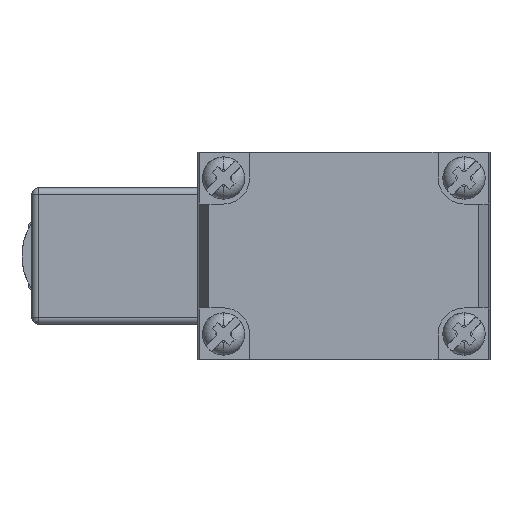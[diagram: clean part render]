
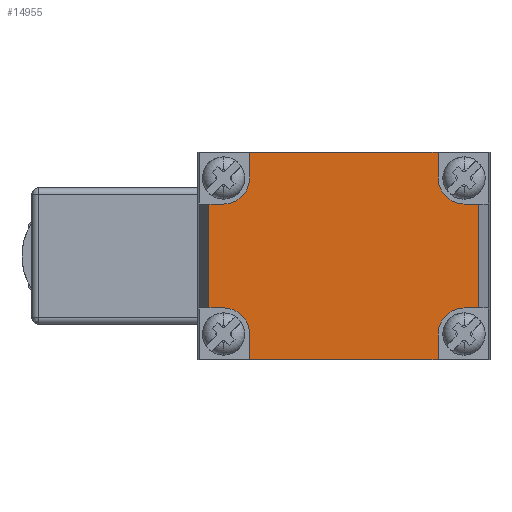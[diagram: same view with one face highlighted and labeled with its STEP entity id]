
A CAD part, left-side view. The second image highlights one B-rep face of the part: STEP entity #14955.
In plain terms, the highlighted planar face has unit normal (-1, 0, 0).
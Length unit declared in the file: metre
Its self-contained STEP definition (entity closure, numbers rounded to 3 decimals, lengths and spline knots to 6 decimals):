
#11 = ORIENTED_EDGE ( 'NONE', *, *, #952, .T. ) ;
#223 = LINE ( 'NONE', #18675, #9924 ) ;
#460 = CARTESIAN_POINT ( 'NONE',  ( -0.048, 0.00175, 0.008 ) ) ;
#947 = ORIENTED_EDGE ( 'NONE', *, *, #1217, .T. ) ;
#952 = EDGE_CURVE ( 'NONE', #5681, #6882, #223, .T. ) ;
#1105 = CARTESIAN_POINT ( 'NONE',  ( -0.048, 0.037, 0.016 ) ) ;
#1217 = EDGE_CURVE ( 'NONE', #22174, #6168, #19924, .T. ) ;
#1802 = CARTESIAN_POINT ( 'NONE',  ( -0.048, 0.037, -0.011998 ) ) ;
#1956 = ORIENTED_EDGE ( 'NONE', *, *, #6713, .T. ) ;
#2540 = CARTESIAN_POINT ( 'NONE',  ( -0.048, 0.04325, -0.016 ) ) ;
#2616 = VECTOR ( 'NONE', #8328, 1. ) ;
#2619 = VECTOR ( 'NONE', #6018, 1. ) ;
#3252 = DIRECTION ( 'NONE',  ( 0., 0., 1. ) ) ;
#3295 = ORIENTED_EDGE ( 'NONE', *, *, #9428, .T. ) ;
#3478 = ORIENTED_EDGE ( 'NONE', *, *, #5710, .T. ) ;
#3987 = CARTESIAN_POINT ( 'NONE',  ( -0.048, 0.041, 0.012 ) ) ;
#4048 = DIRECTION ( 'NONE',  ( 0., 0., -1. ) ) ;
#4079 = CARTESIAN_POINT ( 'NONE',  ( -0.048, 0.0225, 0.008 ) ) ;
#4119 = DIRECTION ( 'NONE',  ( 0., 0., 1. ) ) ;
#4145 = VECTOR ( 'NONE', #22397, 1. ) ;
#4197 = CIRCLE ( 'NONE', #4674, 0.004 ) ;
#4213 = EDGE_CURVE ( 'NONE', #19175, #10224, #21248, .T. ) ;
#4501 = EDGE_CURVE ( 'NONE', #10403, #10432, #19120, .T. ) ;
#4674 = AXIS2_PLACEMENT_3D ( 'NONE', #11120, #24647, #13062 ) ;
#4756 = LINE ( 'NONE', #6904, #4145 ) ;
#4855 = VERTEX_POINT ( 'NONE', #5352 ) ;
#4875 = CARTESIAN_POINT ( 'NONE',  ( -0.048, 0.0225, 0.016 ) ) ;
#5218 = VECTOR ( 'NONE', #3252, 1. ) ;
#5352 = CARTESIAN_POINT ( 'NONE',  ( -0.048, 0.04325, -0.008 ) ) ;
#5599 = EDGE_CURVE ( 'NONE', #16785, #22766, #7604, .T. ) ;
#5681 = VERTEX_POINT ( 'NONE', #15794 ) ;
#5710 = EDGE_CURVE ( 'NONE', #8862, #18178, #9111, .T. ) ;
#5930 = DIRECTION ( 'NONE',  ( 0., 0., 1. ) ) ;
#6018 = DIRECTION ( 'NONE',  ( 0., 1., 0. ) ) ;
#6149 = CARTESIAN_POINT ( 'NONE',  ( -0.048, 0.037, -0.016 ) ) ;
#6168 = VERTEX_POINT ( 'NONE', #17545 ) ;
#6264 = DIRECTION ( 'NONE',  ( 1., 0., 0. ) ) ;
#6359 = CARTESIAN_POINT ( 'NONE',  ( -0.048, 0.004, -0.008 ) ) ;
#6438 = DIRECTION ( 'NONE',  ( -1., 0., 0. ) ) ;
#6713 = EDGE_CURVE ( 'NONE', #18178, #15274, #17249, .T. ) ;
#6720 = CARTESIAN_POINT ( 'NONE',  ( -0.048, 0.004, -0.012 ) ) ;
#6882 = VERTEX_POINT ( 'NONE', #19975 ) ;
#6904 = CARTESIAN_POINT ( 'NONE',  ( -0.048, 0.04325, 0. ) ) ;
#6916 = ORIENTED_EDGE ( 'NONE', *, *, #4213, .F. ) ;
#6953 = EDGE_CURVE ( 'NONE', #22174, #19175, #17550, .T. ) ;
#6991 = FACE_OUTER_BOUND ( 'NONE', #10017, .T. ) ;
#7053 = DIRECTION ( 'NONE',  ( 0., 0., 1. ) ) ;
#7498 = EDGE_CURVE ( 'NONE', #6168, #10403, #12980, .T. ) ;
#7604 = LINE ( 'NONE', #7823, #10934 ) ;
#7813 = LINE ( 'NONE', #4875, #12977 ) ;
#7818 = CIRCLE ( 'NONE', #22961, 0.004 ) ;
#7823 = CARTESIAN_POINT ( 'NONE',  ( -0.048, 0.0225, 0.008 ) ) ;
#7837 = VECTOR ( 'NONE', #12836, 1. ) ;
#8328 = DIRECTION ( 'NONE',  ( 0., 0., 1. ) ) ;
#8397 = VERTEX_POINT ( 'NONE', #23147 ) ;
#8485 = ORIENTED_EDGE ( 'NONE', *, *, #18724, .T. ) ;
#8665 = DIRECTION ( 'NONE',  ( 0., 0., 1. ) ) ;
#8862 = VERTEX_POINT ( 'NONE', #1105 ) ;
#9111 = LINE ( 'NONE', #15631, #15492 ) ;
#9128 = EDGE_CURVE ( 'NONE', #15274, #23390, #23205, .T. ) ;
#9351 = CARTESIAN_POINT ( 'NONE',  ( -0.048, 0.008, -0.016 ) ) ;
#9428 = EDGE_CURVE ( 'NONE', #23390, #4855, #4756, .T. ) ;
#9747 = AXIS2_PLACEMENT_3D ( 'NONE', #2540, #6438, #19986 ) ;
#9779 = DIRECTION ( 'NONE',  ( 0., 1., 0. ) ) ;
#9832 = CARTESIAN_POINT ( 'NONE',  ( -0.048, 0.0225, -0.008 ) ) ;
#9914 = EDGE_CURVE ( 'NONE', #6882, #8862, #7813, .T. ) ;
#9924 = VECTOR ( 'NONE', #7053, 1. ) ;
#10017 = EDGE_LOOP ( 'NONE', ( #23211, #6916, #21002, #947, #20054, #17455, #24347, #24062, #8485, #11, #24518, #3478, #1956, #14423, #3295, #12806 ) ) ;
#10224 = VERTEX_POINT ( 'NONE', #1802 ) ;
#10229 = VECTOR ( 'NONE', #4119, 1. ) ;
#10403 = VERTEX_POINT ( 'NONE', #6359 ) ;
#10432 = VERTEX_POINT ( 'NONE', #21838 ) ;
#10683 = DIRECTION ( 'NONE',  ( 0., 1., 0. ) ) ;
#10934 = VECTOR ( 'NONE', #9779, 1. ) ;
#11120 = CARTESIAN_POINT ( 'NONE',  ( -0.048, 0.041, -0.011998 ) ) ;
#11193 = CARTESIAN_POINT ( 'NONE',  ( -0.048, 0.004, 0.008 ) ) ;
#11573 = EDGE_CURVE ( 'NONE', #10432, #16785, #18671, .T. ) ;
#12806 = ORIENTED_EDGE ( 'NONE', *, *, #22797, .T. ) ;
#12836 = DIRECTION ( 'NONE',  ( 0., 1., 0. ) ) ;
#12977 = VECTOR ( 'NONE', #10683, 1. ) ;
#12980 = CIRCLE ( 'NONE', #14191, 0.004 ) ;
#13062 = DIRECTION ( 'NONE',  ( 0., 0., 1. ) ) ;
#13216 = CARTESIAN_POINT ( 'NONE',  ( -0.048, 0.0225, -0.008 ) ) ;
#13724 = DIRECTION ( 'NONE',  ( 0., -1., 0. ) ) ;
#13973 = VECTOR ( 'NONE', #13724, 1. ) ;
#14066 = CARTESIAN_POINT ( 'NONE',  ( -0.048, 0.037, 0.012 ) ) ;
#14191 = AXIS2_PLACEMENT_3D ( 'NONE', #6720, #20268, #8665 ) ;
#14423 = ORIENTED_EDGE ( 'NONE', *, *, #9128, .T. ) ;
#14841 = CARTESIAN_POINT ( 'NONE',  ( -0.048, 0.037, -0.013999 ) ) ;
#14955 = ADVANCED_FACE ( 'NONE', ( #6991 ), #19906, .T. ) ;
#15152 = AXIS2_PLACEMENT_3D ( 'NONE', #3987, #17515, #5930 ) ;
#15162 = DIRECTION ( 'NONE',  ( 0., -1., 0. ) ) ;
#15274 = VERTEX_POINT ( 'NONE', #21058 ) ;
#15492 = VECTOR ( 'NONE', #4048, 1. ) ;
#15631 = CARTESIAN_POINT ( 'NONE',  ( -0.048, 0.037, 0. ) ) ;
#15695 = CARTESIAN_POINT ( 'NONE',  ( -0.048, 0.008, 0. ) ) ;
#15794 = CARTESIAN_POINT ( 'NONE',  ( -0.048, 0.008, 0.012 ) ) ;
#16785 = VERTEX_POINT ( 'NONE', #460 ) ;
#16796 = CARTESIAN_POINT ( 'NONE',  ( -0.048, 0.04325, 0.008 ) ) ;
#17249 = CIRCLE ( 'NONE', #15152, 0.004 ) ;
#17455 = ORIENTED_EDGE ( 'NONE', *, *, #4501, .T. ) ;
#17515 = DIRECTION ( 'NONE',  ( 1., 0., 0. ) ) ;
#17545 = CARTESIAN_POINT ( 'NONE',  ( -0.048, 0.008, -0.012 ) ) ;
#17550 = LINE ( 'NONE', #24431, #7837 ) ;
#17849 = CARTESIAN_POINT ( 'NONE',  ( -0.048, 0.004, 0.012 ) ) ;
#18178 = VERTEX_POINT ( 'NONE', #14066 ) ;
#18671 = LINE ( 'NONE', #19849, #2616 ) ;
#18675 = CARTESIAN_POINT ( 'NONE',  ( -0.048, 0.008, 0. ) ) ;
#18724 = EDGE_CURVE ( 'NONE', #22766, #5681, #7818, .T. ) ;
#19120 = LINE ( 'NONE', #9832, #13973 ) ;
#19175 = VERTEX_POINT ( 'NONE', #6149 ) ;
#19494 = EDGE_CURVE ( 'NONE', #8397, #10224, #4197, .T. ) ;
#19800 = DIRECTION ( 'NONE',  ( 0., 0., 1. ) ) ;
#19849 = CARTESIAN_POINT ( 'NONE',  ( -0.048, 0.00175, 0. ) ) ;
#19906 = PLANE ( 'NONE',  #9747 ) ;
#19924 = LINE ( 'NONE', #15695, #10229 ) ;
#19975 = CARTESIAN_POINT ( 'NONE',  ( -0.048, 0.008, 0.016 ) ) ;
#19986 = DIRECTION ( 'NONE',  ( 0., -1., 0. ) ) ;
#20054 = ORIENTED_EDGE ( 'NONE', *, *, #7498, .T. ) ;
#20268 = DIRECTION ( 'NONE',  ( 1., 0., 0. ) ) ;
#21002 = ORIENTED_EDGE ( 'NONE', *, *, #6953, .F. ) ;
#21058 = CARTESIAN_POINT ( 'NONE',  ( -0.048, 0.041, 0.008 ) ) ;
#21248 = LINE ( 'NONE', #14841, #5218 ) ;
#21838 = CARTESIAN_POINT ( 'NONE',  ( -0.048, 0.00175, -0.008 ) ) ;
#22174 = VERTEX_POINT ( 'NONE', #9351 ) ;
#22397 = DIRECTION ( 'NONE',  ( 0., 0., -1. ) ) ;
#22766 = VERTEX_POINT ( 'NONE', #11193 ) ;
#22797 = EDGE_CURVE ( 'NONE', #4855, #8397, #23743, .T. ) ;
#22961 = AXIS2_PLACEMENT_3D ( 'NONE', #17849, #6264, #19800 ) ;
#23137 = VECTOR ( 'NONE', #15162, 1. ) ;
#23147 = CARTESIAN_POINT ( 'NONE',  ( -0.048, 0.040872, -0.008 ) ) ;
#23205 = LINE ( 'NONE', #4079, #2619 ) ;
#23211 = ORIENTED_EDGE ( 'NONE', *, *, #19494, .T. ) ;
#23390 = VERTEX_POINT ( 'NONE', #16796 ) ;
#23743 = LINE ( 'NONE', #13216, #23137 ) ;
#24062 = ORIENTED_EDGE ( 'NONE', *, *, #5599, .T. ) ;
#24347 = ORIENTED_EDGE ( 'NONE', *, *, #11573, .T. ) ;
#24431 = CARTESIAN_POINT ( 'NONE',  ( -0.048, 0.0225, -0.016 ) ) ;
#24518 = ORIENTED_EDGE ( 'NONE', *, *, #9914, .T. ) ;
#24647 = DIRECTION ( 'NONE',  ( 1., 0., 0. ) ) ;
